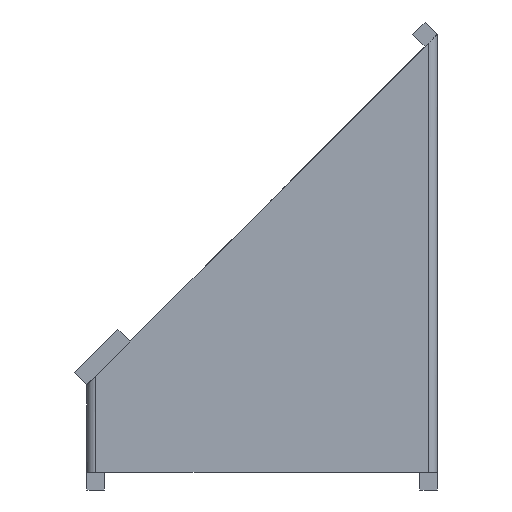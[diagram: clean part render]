
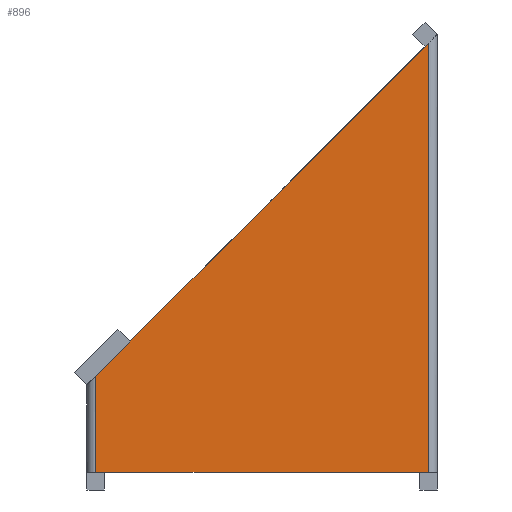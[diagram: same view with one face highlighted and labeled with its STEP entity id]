
A CAD part, front view. The second image highlights one B-rep face of the part: STEP entity #896.
In plain terms, the highlighted planar face has unit normal (0, -1, 0).
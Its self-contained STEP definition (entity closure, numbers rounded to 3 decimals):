
#34 = ORIENTED_EDGE ( 'NONE', *, *, #529, .T. ) ;
#40 = CARTESIAN_POINT ( 'NONE',  ( -20., -20., 25. ) ) ;
#67 = CARTESIAN_POINT ( 'NONE',  ( -19., -20., -14. ) ) ;
#70 = VERTEX_POINT ( 'NONE', #1353 ) ;
#94 = AXIS2_PLACEMENT_3D ( 'NONE', #40, #1497, #1349 ) ;
#140 = EDGE_CURVE ( 'NONE', #70, #573, #677, .T. ) ;
#191 = DIRECTION ( 'NONE',  ( 1., 0., 0. ) ) ;
#288 = VERTEX_POINT ( 'NONE', #67 ) ;
#297 = DIRECTION ( 'NONE',  ( 0., 0., 1. ) ) ;
#357 = ORIENTED_EDGE ( 'NONE', *, *, #140, .T. ) ;
#380 = CARTESIAN_POINT ( 'NONE',  ( -20., -20., -25. ) ) ;
#485 = CARTESIAN_POINT ( 'NONE',  ( 19., -20., 25. ) ) ;
#514 = FACE_OUTER_BOUND ( 'NONE', #1590, .T. ) ;
#529 = EDGE_CURVE ( 'NONE', #722, #70, #574, .T. ) ;
#573 = VERTEX_POINT ( 'NONE', #852 ) ;
#574 = LINE ( 'NONE', #380, #1519 ) ;
#677 = LINE ( 'NONE', #485, #1112 ) ;
#692 = ORIENTED_EDGE ( 'NONE', *, *, #1138, .T. ) ;
#722 = VERTEX_POINT ( 'NONE', #1191 ) ;
#762 = DIRECTION ( 'NONE',  ( 0., 0., -1. ) ) ;
#810 = PLANE ( 'NONE',  #94 ) ;
#852 = CARTESIAN_POINT ( 'NONE',  ( 19., -20., 24. ) ) ;
#896 = ADVANCED_FACE ( 'NONE', ( #514 ), #810, .F. ) ;
#920 = CARTESIAN_POINT ( 'NONE',  ( -19., -20., 25. ) ) ;
#1032 = EDGE_CURVE ( 'NONE', #288, #573, #1470, .T. ) ;
#1066 = LINE ( 'NONE', #920, #1260 ) ;
#1112 = VECTOR ( 'NONE', #297, 1000. ) ;
#1138 = EDGE_CURVE ( 'NONE', #288, #722, #1066, .T. ) ;
#1191 = CARTESIAN_POINT ( 'NONE',  ( -19., -20., -25. ) ) ;
#1237 = ORIENTED_EDGE ( 'NONE', *, *, #1032, .F. ) ;
#1260 = VECTOR ( 'NONE', #762, 1000. ) ;
#1290 = DIRECTION ( 'NONE',  ( 0.707, 0., 0.707 ) ) ;
#1349 = DIRECTION ( 'NONE',  ( -1., 0., 0. ) ) ;
#1353 = CARTESIAN_POINT ( 'NONE',  ( 19., -20., -25. ) ) ;
#1435 = CARTESIAN_POINT ( 'NONE',  ( 20., -20., 25. ) ) ;
#1469 = VECTOR ( 'NONE', #1290, 1000. ) ;
#1470 = LINE ( 'NONE', #1435, #1469 ) ;
#1497 = DIRECTION ( 'NONE',  ( 0., 1., 0. ) ) ;
#1519 = VECTOR ( 'NONE', #191, 1000. ) ;
#1590 = EDGE_LOOP ( 'NONE', ( #1237, #692, #34, #357 ) ) ;
